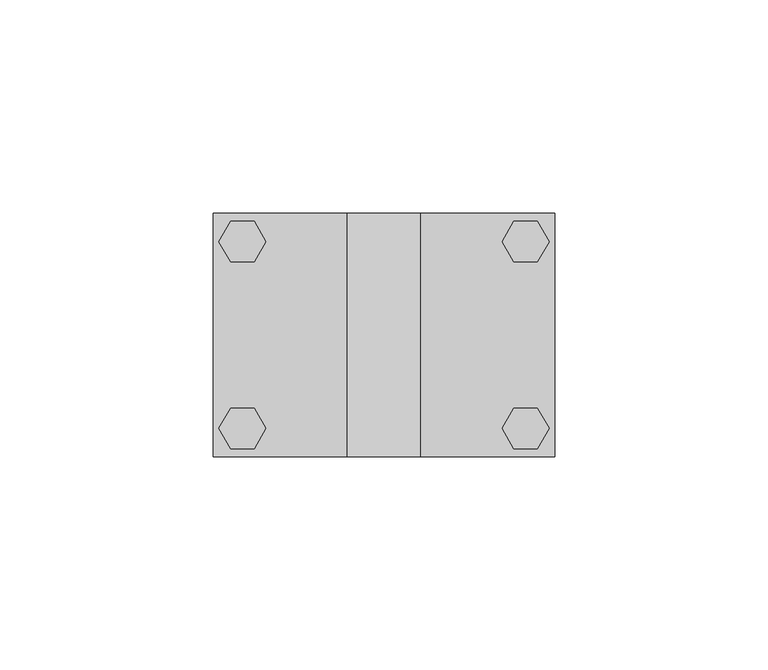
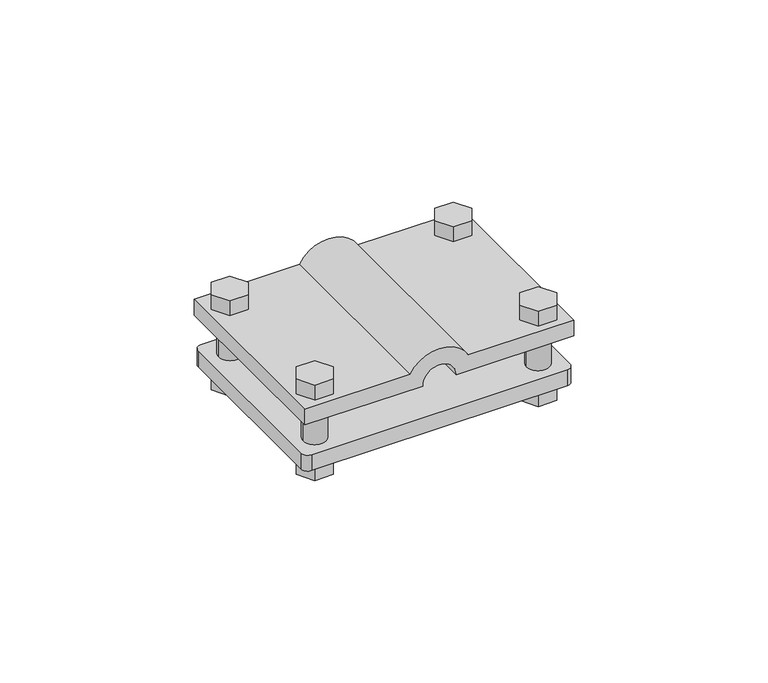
"""IFC4 building model written with IfcOpenShell, lengths in millimetres: proxy geometry, КНС_СоединительПрутокПолоса_DKC : NG3101CU_Медь_57х80 мм."""

from ifc_helpers import new_model, si_unit, point, frame, frame_2d, origin, place, context, project, spatial, polyline, circle_curve, trimmed, segment, composite_curve, outline, extrude, source, transform, mapped, element, save


def security_devices_44b4dedf(model_context):
    return source(origin(), model_context, "Body", "SweptSolid", [
        extrude(outline(composite_curve([segment(polyline([(10.0, -40.0), (5.0, -40.0), (5.0, -5.0)]), True, "CONTINUOUS"), segment(trimmed(circle_curve(frame_2d((5.0, 0.0)), 5.0), [point((5.0, -5.0))], [point((5.0, 5.0))], True, "CARTESIAN"), True, "CONTINUOUS"), segment(polyline([(5.0, 5.0), (5.0, 40.0), (10.0, 40.0), (10.0, 8.660254)]), True, "CONTINUOUS"), segment(trimmed(circle_curve(frame_2d((5.0, 0.0)), 10.0), [point((10.0, 8.660254))], [point((10.0, -8.660254))], False, "CARTESIAN"), True, "CONTINUOUS"), segment(polyline([(10.0, -8.660254), (10.0, -40.0)]), True, "CONTINUOUS")], self_intersect=False)), frame((0.0, -28.5, 0.0), z_axis=(0.0, 1.0, 0.0), x_axis=(0.0, 0.0, 1.0)), (0.0, 0.0, 1.0), 57.0),
        extrude(outline(composite_curve([segment(trimmed(circle_curve(frame_2d((-33.2121057, 21.78125)), 3.4209609), [point((-36.6330666, 21.78125))], [point((-29.7911448, 21.78125))], False, "CARTESIAN"), True, "CONTINUOUS"), segment(trimmed(circle_curve(frame_2d((-33.2121057, 21.78125)), 3.4209609), [point((-29.7911448, 21.78125))], [point((-36.6330666, 21.78125))], False, "CARTESIAN"), True, "CONTINUOUS")], self_intersect=False)), frame((0.0, 0.0, -10.0), z_axis=(0.0, 0.0, 1.0), x_axis=(1.0, 0.0, 0.0)), (0.0, 0.0, 1.0), 20.0),
        extrude(outline(composite_curve([segment(trimmed(circle_curve(frame_2d((33.2121057, 21.78125)), 3.4209609), [point((29.7911448, 21.78125))], [point((36.6330666, 21.78125))], False, "CARTESIAN"), True, "CONTINUOUS"), segment(trimmed(circle_curve(frame_2d((33.2121057, 21.78125)), 3.4209609), [point((36.6330666, 21.78125))], [point((29.7911448, 21.78125))], False, "CARTESIAN"), True, "CONTINUOUS")], self_intersect=False)), frame((0.0, 0.0, -10.0), z_axis=(0.0, 0.0, 1.0), x_axis=(1.0, 0.0, 0.0)), (0.0, 0.0, 1.0), 20.0),
        extrude(outline(composite_curve([segment(trimmed(circle_curve(frame_2d((-33.2121057, -21.78125)), 3.4209609), [point((-36.6330666, -21.78125))], [point((-29.7911448, -21.78125))], False, "CARTESIAN"), True, "CONTINUOUS"), segment(trimmed(circle_curve(frame_2d((-33.2121057, -21.78125)), 3.4209609), [point((-29.7911448, -21.78125))], [point((-36.6330666, -21.78125))], False, "CARTESIAN"), True, "CONTINUOUS")], self_intersect=False)), frame((0.0, 0.0, -10.0), z_axis=(0.0, 0.0, 1.0), x_axis=(1.0, 0.0, 0.0)), (0.0, 0.0, 1.0), 20.0),
        extrude(outline(composite_curve([segment(trimmed(circle_curve(frame_2d((33.2121057, -21.78125)), 3.4209609), [point((29.7911448, -21.78125))], [point((36.6330666, -21.78125))], False, "CARTESIAN"), True, "CONTINUOUS"), segment(trimmed(circle_curve(frame_2d((33.2121057, -21.78125)), 3.4209609), [point((36.6330666, -21.78125))], [point((29.7911448, -21.78125))], False, "CARTESIAN"), True, "CONTINUOUS")], self_intersect=False)), frame((0.0, 0.0, -10.0), z_axis=(0.0, 0.0, 1.0), x_axis=(1.0, 0.0, 0.0)), (0.0, 0.0, 1.0), 20.0),
        extrude(outline(polyline([(-38.6996224, 21.8883083), (-35.955864, 26.6406371), (-30.4683473, 26.6406371), (-27.724589, 21.8883083), (-30.4683473, 17.1359794), (-35.955864, 17.1359794), (-38.6996224, 21.8883083)])), frame((0.0, 0.0, -15.0), z_axis=(0.0, 0.0, 1.0), x_axis=(1.0, 0.0, 0.0)), (0.0, 0.0, 1.0), 5.0),
        extrude(outline(polyline([(38.6996224, 21.8883083), (35.955864, 17.1359794), (30.4683473, 17.1359794), (27.724589, 21.8883083), (30.4683473, 26.6406371), (35.955864, 26.6406371), (38.6996224, 21.8883083)])), frame((0.0, 0.0, -15.0), z_axis=(0.0, 0.0, 1.0), x_axis=(1.0, 0.0, 0.0)), (0.0, 0.0, 1.0), 5.0),
        extrude(outline(polyline([(-38.6996224, -21.8883083), (-35.955864, -17.1359794), (-30.4683473, -17.1359794), (-27.724589, -21.8883083), (-30.4683473, -26.6406371), (-35.955864, -26.6406371), (-38.6996224, -21.8883083)])), frame((0.0, 0.0, -15.0), z_axis=(0.0, 0.0, 1.0), x_axis=(1.0, 0.0, 0.0)), (0.0, 0.0, 1.0), 5.0),
        extrude(outline(polyline([(38.6996224, -21.8883083), (35.955864, -26.6406371), (30.4683473, -26.6406371), (27.724589, -21.8883083), (30.4683473, -17.1359794), (35.955864, -17.1359794), (38.6996224, -21.8883083)])), frame((0.0, 0.0, -15.0), z_axis=(0.0, 0.0, 1.0), x_axis=(1.0, 0.0, 0.0)), (0.0, 0.0, 1.0), 5.0),
        extrude(outline(polyline([(-38.6996224, 21.8883083), (-35.955864, 26.6406371), (-30.4683473, 26.6406371), (-27.724589, 21.8883083), (-30.4683473, 17.1359794), (-35.955864, 17.1359794), (-38.6996224, 21.8883083)])), frame((0.0, 0.0, 10.0), z_axis=(0.0, 0.0, 1.0), x_axis=(1.0, 0.0, 0.0)), (0.0, 0.0, 1.0), 5.0),
        extrude(outline(polyline([(38.6996224, 21.8883083), (35.955864, 17.1359794), (30.4683473, 17.1359794), (27.724589, 21.8883083), (30.4683473, 26.6406371), (35.955864, 26.6406371), (38.6996224, 21.8883083)])), frame((0.0, 0.0, 10.0), z_axis=(0.0, 0.0, 1.0), x_axis=(1.0, 0.0, 0.0)), (0.0, 0.0, 1.0), 5.0),
        extrude(outline(polyline([(-38.6996224, -21.8883083), (-35.955864, -17.1359794), (-30.4683473, -17.1359794), (-27.724589, -21.8883083), (-30.4683473, -26.6406371), (-35.955864, -26.6406371), (-38.6996224, -21.8883083)])), frame((0.0, 0.0, 10.0), z_axis=(0.0, 0.0, 1.0), x_axis=(1.0, 0.0, 0.0)), (0.0, 0.0, 1.0), 5.0),
        extrude(outline(polyline([(38.6996224, -21.8883083), (35.955864, -26.6406371), (30.4683473, -26.6406371), (27.724589, -21.8883083), (30.4683473, -17.1359794), (35.955864, -17.1359794), (38.6996224, -21.8883083)])), frame((0.0, 0.0, 10.0), z_axis=(0.0, 0.0, 1.0), x_axis=(1.0, 0.0, 0.0)), (0.0, 0.0, 1.0), 5.0),
        extrude(outline(composite_curve([segment(trimmed(circle_curve(frame_2d((38.0, 26.5)), 2.0), [point((38.0, 28.5))], [point((40.0, 26.5))], False, "CARTESIAN"), True, "CONTINUOUS"), segment(polyline([(40.0, 26.5), (40.0, -26.5)]), True, "CONTINUOUS"), segment(trimmed(circle_curve(frame_2d((38.0, -26.5)), 2.0), [point((40.0, -26.5))], [point((38.0, -28.5))], False, "CARTESIAN"), True, "CONTINUOUS"), segment(polyline([(38.0, -28.5), (-38.0, -28.5)]), True, "CONTINUOUS"), segment(trimmed(circle_curve(frame_2d((-38.0, -26.5)), 2.0), [point((-38.0, -28.5))], [point((-40.0, -26.5))], False, "CARTESIAN"), True, "CONTINUOUS"), segment(polyline([(-40.0, -26.5), (-40.0, 26.5)]), True, "CONTINUOUS"), segment(trimmed(circle_curve(frame_2d((-38.0, 26.5)), 2.0), [point((-40.0, 26.5))], [point((-38.0, 28.5))], False, "CARTESIAN"), True, "CONTINUOUS"), segment(polyline([(-38.0, 28.5), (38.0, 28.5)]), True, "CONTINUOUS")], self_intersect=False)), frame((0.0, 0.0, -10.0), z_axis=(0.0, 0.0, 1.0), x_axis=(1.0, 0.0, 0.0)), (0.0, 0.0, 1.0), 5.0),
    ])


if __name__ == "__main__":
    model = new_model("IFC4")
    model_context = context("Model", 3, world=origin())
    ifc_project = project(units=[si_unit("LENGTHUNIT", "METRE", prefix="MILLI")], contexts=[model_context])
    site = spatial("IfcSite", under=ifc_project)
    building = spatial("IfcBuilding", under=site)
    placement = place(None, origin())
    security_devices_shape = security_devices_44b4dedf(model_context)
    element("IfcBuildingElementProxy", 1, Name="КНС_СоединительПрутокПолоса_DKC : NG3101CU_Медь_57х80 мм", ObjectType="КНС_СоединительПрутокПолоса_DKC : NG3101CU_Медь_57х80 мм", at=placement, inside=building, context=model_context, shape_type="MappedRepresentation", body=[
        mapped(security_devices_shape, transform((0.0, 0.0, 0.0), x_axis=(1.0, 0.0, 0.0), y_axis=(0.0, 1.0, 0.0), z_axis=(0.0, 0.0, 1.0))),
    ])
    save(model, "model.ifc")
